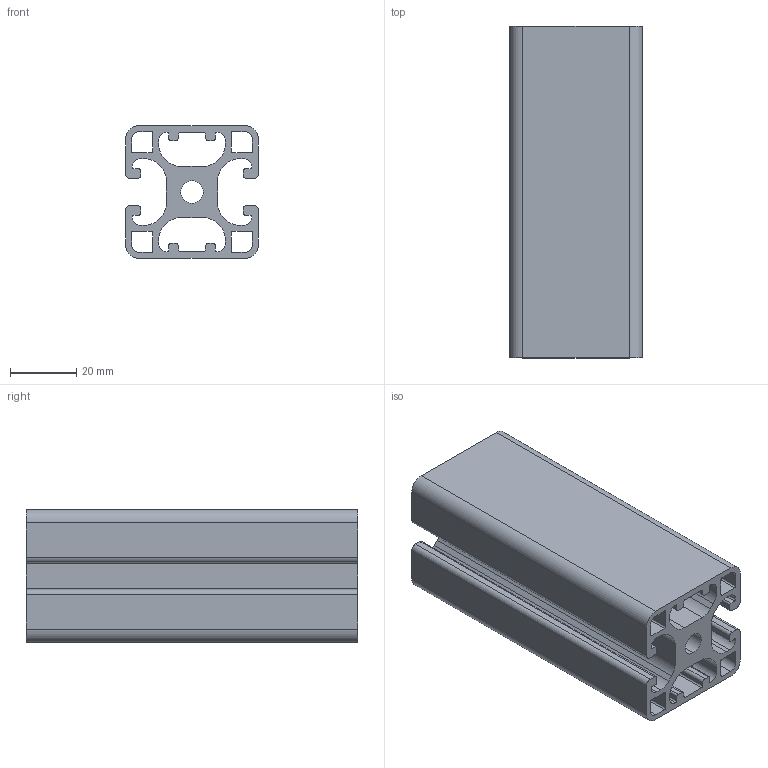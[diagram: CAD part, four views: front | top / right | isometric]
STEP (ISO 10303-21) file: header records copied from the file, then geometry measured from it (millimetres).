
FILE_DESCRIPTION (( 'STEP AP203' ), '1' );
FILE_NAME ('0108P4040-1N180L.STEP', '2024-02-29T07:25:49', ( 'Windows-Benutzer' ), ( '' ), 'SwSTEP 2.0', 'SolidWorks 2023', '' );
FILE_SCHEMA (( 'CONFIG_CONTROL_DESIGN' ));
Length unit declared in the file: millimetre
Products named in the file (1): 0108P4040-1N180L
Bounding box: 40 x 100 x 40 mm (x, y, z)
Volume: 68468.5 mm3; surface area: 50005.1 mm2
Topology: 1 solids, 1 shells, 148 faces, 438 edges, 292 vertices
Faces by surface type: cylinder 78, plane 70
Entity records: 5103 total; most frequent: DIRECTION 892, CARTESIAN_POINT 879, ORIENTED_EDGE 876, EDGE_CURVE 438, AXIS2_PLACEMENT_3D 305, VERTEX_POINT 292, VECTOR 282, LINE 282
